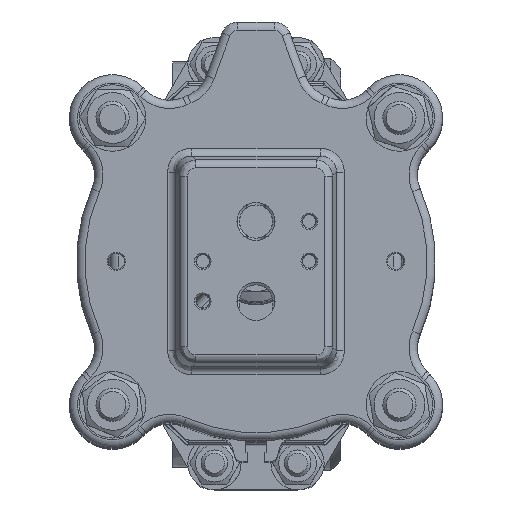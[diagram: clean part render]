
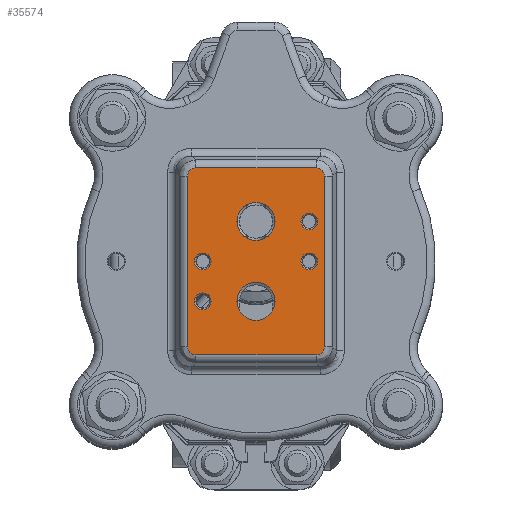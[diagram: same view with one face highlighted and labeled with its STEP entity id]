
A CAD part, top view. The second image highlights one B-rep face of the part: STEP entity #35574.
In plain terms, the highlighted planar face has unit normal (0, 0, 1).
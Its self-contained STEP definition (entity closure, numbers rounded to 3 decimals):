
#731=ELLIPSE('',#38170,2.673,2.5);
#732=ELLIPSE('',#38171,2.673,2.5);
#733=ELLIPSE('',#38172,2.673,2.5);
#734=ELLIPSE('',#38173,2.673,2.5);
#2705=LINE('',#55681,#4686);
#2706=LINE('',#55685,#4687);
#2707=LINE('',#55689,#4688);
#2708=LINE('',#55692,#4689);
#4686=VECTOR('',#43603,10.);
#4687=VECTOR('',#43606,10.);
#4688=VECTOR('',#43609,10.);
#4689=VECTOR('',#43612,10.);
#7007=FACE_BOUND('',#9727,.T.);
#7008=FACE_BOUND('',#9728,.T.);
#7009=FACE_BOUND('',#9729,.T.);
#7010=FACE_BOUND('',#9730,.T.);
#7011=FACE_BOUND('',#9731,.T.);
#7012=FACE_BOUND('',#9732,.T.);
#7455=FACE_OUTER_BOUND('',#9726,.T.);
#9726=EDGE_LOOP('',(#24664,#24665,#24666,#24667,#24668,#24669,#24670,#24671));
#9727=EDGE_LOOP('',(#24672,#24673));
#9728=EDGE_LOOP('',(#24674,#24675));
#9729=EDGE_LOOP('',(#24676));
#9730=EDGE_LOOP('',(#24677));
#9731=EDGE_LOOP('',(#24678));
#9732=EDGE_LOOP('',(#24679));
#12122=CIRCLE('',#38039,5.723);
#12123=CIRCLE('',#38040,5.723);
#12125=CIRCLE('',#38043,5.723);
#12126=CIRCLE('',#38044,5.723);
#12217=CIRCLE('',#38168,2.5);
#12218=CIRCLE('',#38174,2.5);
#12219=CIRCLE('',#38175,2.5);
#12220=CIRCLE('',#38176,2.5);
#14751=VERTEX_POINT('',#54986);
#14752=VERTEX_POINT('',#54988);
#14753=VERTEX_POINT('',#54993);
#14754=VERTEX_POINT('',#54995);
#14855=VERTEX_POINT('',#55673);
#14856=VERTEX_POINT('',#55677);
#14857=VERTEX_POINT('',#55678);
#14858=VERTEX_POINT('',#55680);
#14859=VERTEX_POINT('',#55682);
#14860=VERTEX_POINT('',#55684);
#14861=VERTEX_POINT('',#55686);
#14862=VERTEX_POINT('',#55688);
#14863=VERTEX_POINT('',#55690);
#14864=VERTEX_POINT('',#55693);
#14865=VERTEX_POINT('',#55695);
#14866=VERTEX_POINT('',#55697);
#18408=EDGE_CURVE('',#14752,#14751,#12122,.T.);
#18409=EDGE_CURVE('',#14751,#14752,#12123,.T.);
#18412=EDGE_CURVE('',#14754,#14753,#12125,.T.);
#18413=EDGE_CURVE('',#14753,#14754,#12126,.T.);
#18549=EDGE_CURVE('',#14855,#14855,#12217,.T.);
#18550=EDGE_CURVE('',#14856,#14857,#731,.T.);
#18551=EDGE_CURVE('',#14858,#14856,#2705,.T.);
#18552=EDGE_CURVE('',#14859,#14858,#732,.T.);
#18553=EDGE_CURVE('',#14860,#14859,#2706,.T.);
#18554=EDGE_CURVE('',#14861,#14860,#733,.T.);
#18555=EDGE_CURVE('',#14862,#14861,#2707,.T.);
#18556=EDGE_CURVE('',#14863,#14862,#734,.T.);
#18557=EDGE_CURVE('',#14857,#14863,#2708,.T.);
#18558=EDGE_CURVE('',#14864,#14864,#12218,.T.);
#18559=EDGE_CURVE('',#14865,#14865,#12219,.T.);
#18560=EDGE_CURVE('',#14866,#14866,#12220,.T.);
#24664=ORIENTED_EDGE('',*,*,#18550,.F.);
#24665=ORIENTED_EDGE('',*,*,#18551,.F.);
#24666=ORIENTED_EDGE('',*,*,#18552,.F.);
#24667=ORIENTED_EDGE('',*,*,#18553,.F.);
#24668=ORIENTED_EDGE('',*,*,#18554,.F.);
#24669=ORIENTED_EDGE('',*,*,#18555,.F.);
#24670=ORIENTED_EDGE('',*,*,#18556,.F.);
#24671=ORIENTED_EDGE('',*,*,#18557,.F.);
#24672=ORIENTED_EDGE('',*,*,#18408,.T.);
#24673=ORIENTED_EDGE('',*,*,#18409,.T.);
#24674=ORIENTED_EDGE('',*,*,#18412,.T.);
#24675=ORIENTED_EDGE('',*,*,#18413,.T.);
#24676=ORIENTED_EDGE('',*,*,#18558,.F.);
#24677=ORIENTED_EDGE('',*,*,#18559,.F.);
#24678=ORIENTED_EDGE('',*,*,#18560,.F.);
#24679=ORIENTED_EDGE('',*,*,#18549,.F.);
#34655=PLANE('',#38169);
#35574=ADVANCED_FACE('',(#7455,#7007,#7008,#7009,#7010,#7011,#7012),#34655,
 .F.);
#38039=AXIS2_PLACEMENT_3D('',#54989,#43311,#43312);
#38040=AXIS2_PLACEMENT_3D('',#54990,#43313,#43314);
#38043=AXIS2_PLACEMENT_3D('',#54996,#43320,#43321);
#38044=AXIS2_PLACEMENT_3D('',#54997,#43322,#43323);
#38168=AXIS2_PLACEMENT_3D('',#55675,#43597,#43598);
#38169=AXIS2_PLACEMENT_3D('',#55676,#43599,#43600);
#38170=AXIS2_PLACEMENT_3D('',#55679,#43601,#43602);
#38171=AXIS2_PLACEMENT_3D('',#55683,#43604,#43605);
#38172=AXIS2_PLACEMENT_3D('',#55687,#43607,#43608);
#38173=AXIS2_PLACEMENT_3D('',#55691,#43610,#43611);
#38174=AXIS2_PLACEMENT_3D('',#55694,#43613,#43614);
#38175=AXIS2_PLACEMENT_3D('',#55696,#43615,#43616);
#38176=AXIS2_PLACEMENT_3D('',#55698,#43617,#43618);
#43311=DIRECTION('center_axis',(0.,0.,
-1.));
#43312=DIRECTION('ref_axis',(0.,1.,0.));
#43313=DIRECTION('center_axis',(0.,0.,
-1.));
#43314=DIRECTION('ref_axis',(0.,1.,0.));
#43320=DIRECTION('center_axis',(0.,0.,
-1.));
#43321=DIRECTION('ref_axis',(0.,1.,0.));
#43322=DIRECTION('center_axis',(0.,0.,
-1.));
#43323=DIRECTION('ref_axis',(0.,1.,0.));
#43597=DIRECTION('center_axis',(0.,0.,
1.));
#43598=DIRECTION('ref_axis',(0.,-1.,0.));
#43599=DIRECTION('center_axis',(0.,0.,
-1.));
#43600=DIRECTION('ref_axis',(0.,-1.,0.));
#43601=DIRECTION('center_axis',(0.,0.,
-1.));
#43602=DIRECTION('ref_axis',(0.707,-0.707,0.));
#43603=DIRECTION('',(0.,-1.,0.));
#43604=DIRECTION('center_axis',(0.,0.,
-1.));
#43605=DIRECTION('ref_axis',(0.707,0.707,0.));
#43606=DIRECTION('',(1.,0.,0.));
#43607=DIRECTION('center_axis',(0.,0.,
-1.));
#43608=DIRECTION('ref_axis',(-0.707,0.707,0.));
#43609=DIRECTION('',(0.,1.,0.));
#43610=DIRECTION('center_axis',(0.,0.,
-1.));
#43611=DIRECTION('ref_axis',(-0.707,-0.707,0.));
#43612=DIRECTION('',(-1.,0.,0.));
#43613=DIRECTION('center_axis',(0.,0.,
1.));
#43614=DIRECTION('ref_axis',(0.,-1.,0.));
#43615=DIRECTION('center_axis',(0.,0.,
1.));
#43616=DIRECTION('ref_axis',(0.,-1.,0.));
#43617=DIRECTION('center_axis',(0.,0.,
1.));
#43618=DIRECTION('ref_axis',(0.,-1.,0.));
#54986=CARTESIAN_POINT('',(0.,-17.723,568.5));
#54988=CARTESIAN_POINT('',(0.,-6.278,568.5));
#54989=CARTESIAN_POINT('Origin',(0.,-12.,
568.5));
#54990=CARTESIAN_POINT('Origin',(0.,-12.,
568.5));
#54993=CARTESIAN_POINT('',(0.,6.277,568.5));
#54995=CARTESIAN_POINT('',(0.,17.722,568.5));
#54996=CARTESIAN_POINT('Origin',(0.,12.,
568.5));
#54997=CARTESIAN_POINT('Origin',(0.,12.,
568.5));
#55673=CARTESIAN_POINT('',(-16.,-9.5,568.5));
#55675=CARTESIAN_POINT('Origin',(-16.,-12.,568.5));
#55676=CARTESIAN_POINT('Origin',(0.,0.,
568.5));
#55677=CARTESIAN_POINT('',(20.582,-25.667,568.5));
#55678=CARTESIAN_POINT('',(18.167,-28.082,568.5));
#55679=CARTESIAN_POINT('Origin',(17.993,-25.493,568.5));
#55680=CARTESIAN_POINT('',(20.582,25.667,568.5));
#55681=CARTESIAN_POINT('',(20.582,-15.,568.5));
#55682=CARTESIAN_POINT('',(18.167,28.082,568.5));
#55683=CARTESIAN_POINT('Origin',(17.993,25.493,568.5));
#55684=CARTESIAN_POINT('',(-18.167,28.082,568.5));
#55685=CARTESIAN_POINT('',(11.25,28.082,568.5));
#55686=CARTESIAN_POINT('',(-20.582,25.667,568.5));
#55687=CARTESIAN_POINT('Origin',(-17.993,25.493,568.5));
#55688=CARTESIAN_POINT('',(-20.582,-25.667,568.5));
#55689=CARTESIAN_POINT('',(-20.582,15.,568.5));
#55690=CARTESIAN_POINT('',(-18.167,-28.082,568.5));
#55691=CARTESIAN_POINT('Origin',(-17.993,-25.493,568.5));
#55692=CARTESIAN_POINT('',(-11.25,-28.082,568.5));
#55693=CARTESIAN_POINT('',(-16.,2.5,568.5));
#55694=CARTESIAN_POINT('Origin',(-16.,0.,
568.5));
#55695=CARTESIAN_POINT('',(16.,14.5,568.5));
#55696=CARTESIAN_POINT('Origin',(16.,12.,568.5));
#55697=CARTESIAN_POINT('',(16.,2.5,568.5));
#55698=CARTESIAN_POINT('Origin',(16.,0.,
568.5));
